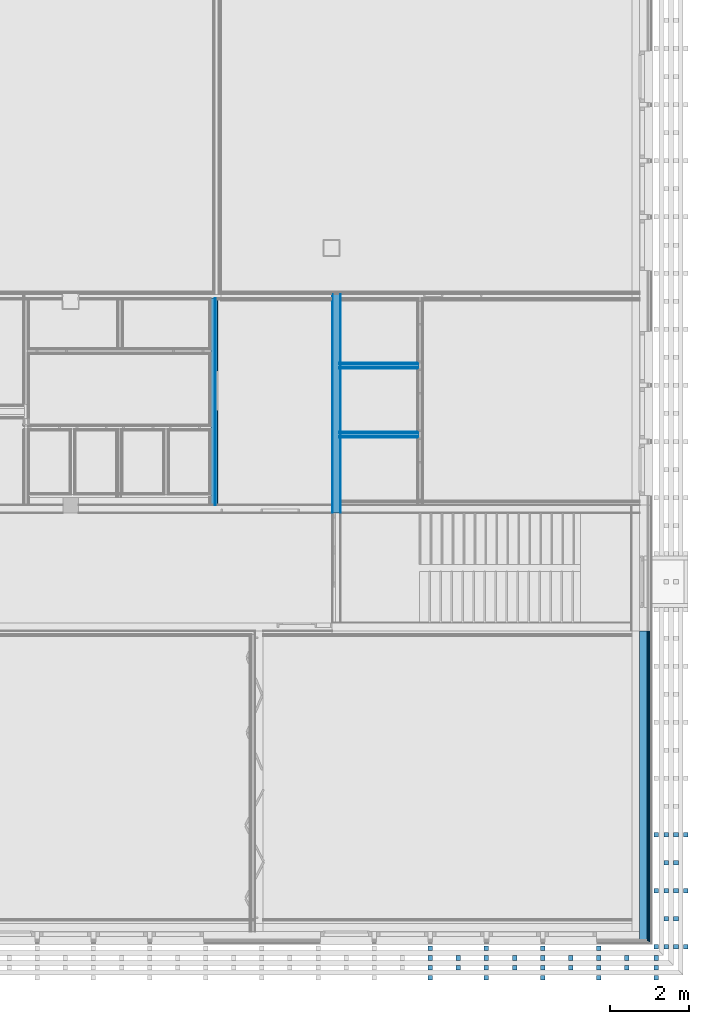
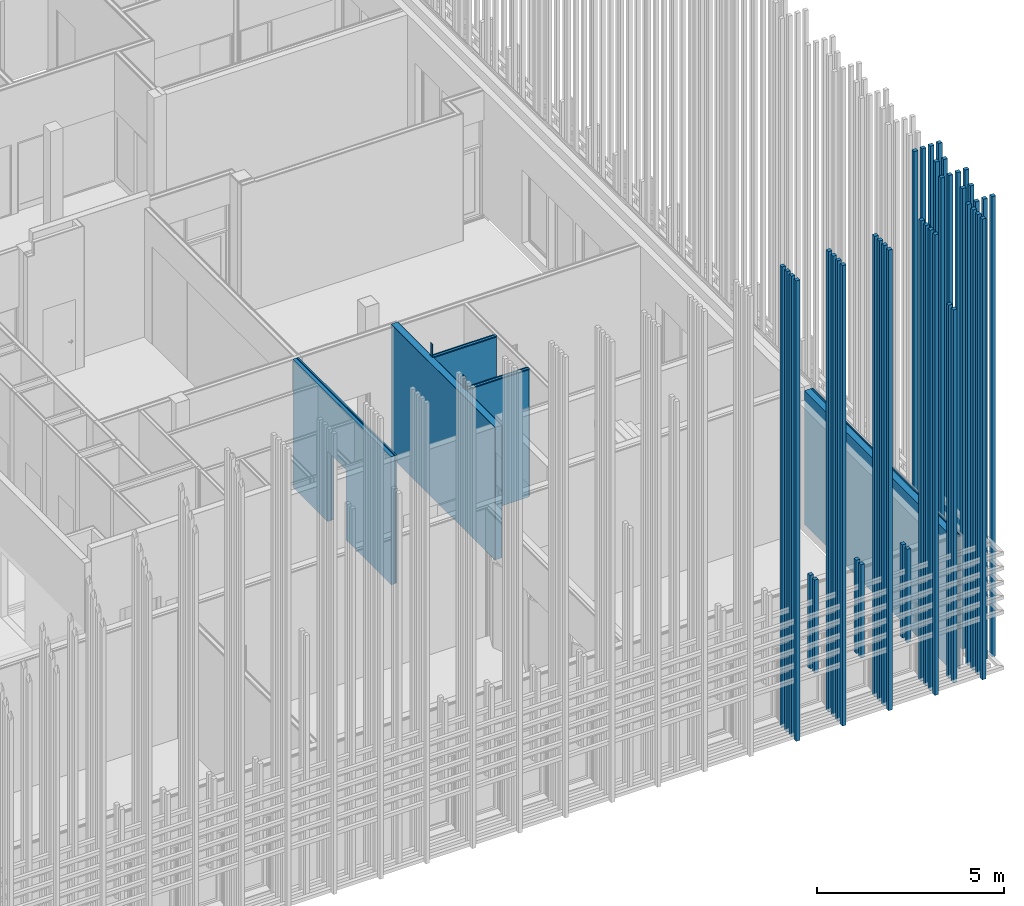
# One storey, part 202 of 260: 24 building element parts, 14 discrete accessories, 1 opening, 5 elements without a shape of their own.
"""IFC2X3 building model written with IfcOpenShell, lengths in millimetres."""

import ifcopenshell
import ifcopenshell.guid

model = None  # the IFC model being written
_history = None  # IfcOwnerHistory: only IFC2X3 demands one
_inside = {}  # id of a spatial element -> (the spatial element, [elements in it])
_under = {}  # id of a project, library or spatial element -> (it, [spatial elements below it])
_declared = {}  # id of a project -> (the project, [libraries it declares])
_typed = {}  # id of a type object -> (the type object, [elements of that type])
_made_of = {}  # id of a material, layer set ... -> (it, [elements and type objects made of it])


def new_model(schema):
    """Start an empty IFC model of exactly this schema.

    Asked for "IFC4X3", IfcOpenShell would pick the latest addendum, in which some entities
    have other attributes; the version numbers below select the first issue.
    IFC2X3 requires an IfcOwnerHistory on every rooted entity: one is made here for all.
    """
    global model, _history
    if schema == "IFC4X3":
        model = ifcopenshell.file(schema_version=(4, 3, 0, 0))
    else:
        model = ifcopenshell.file(schema=schema)
    _inside.clear()
    _under.clear()
    _declared.clear()
    _typed.clear()
    _made_of.clear()
    _history = None
    if model.schema == "IFC2X3":
        org = make("IfcOrganization", Name="unknown")
        user = make(
            "IfcPersonAndOrganization",
            ThePerson=make("IfcPerson", FamilyName="unknown"),
            TheOrganization=org,
        )
        app = make(
            "IfcApplication",
            ApplicationDeveloper=org,
            Version="unknown",
            ApplicationFullName="unknown",
            ApplicationIdentifier="unknown",
        )
        _history = make(
            "IfcOwnerHistory",
            OwningUser=user,
            OwningApplication=app,
            ChangeAction="ADDED",
            CreationDate=0,
        )
    return model


def make(cls, **values):
    """One entity of the class cls with the attributes given. An attribute that is None is left unset."""
    return model.create_entity(
        cls, **{name: value for name, value in values.items() if value is not None}
    )


def entity(cls, *values):
    """Any entity or typed value of the class cls, its attributes in the order of the schema. None: left unset."""
    e = model.create_entity(cls)
    for i, value in enumerate(values):
        if value is not None:
            e[i] = value
    return e


def rooted(cls, **values):
    """An entity with a GlobalId (a new one), such as an element, a storey or a relation."""
    return make(cls, GlobalId=ifcopenshell.guid.new(), OwnerHistory=_history, **values)


def si_unit(unit_type, name, prefix=None):
    """IfcSIUnit, for example si_unit("LENGTHUNIT", "METRE", prefix="MILLI")."""
    return make("IfcSIUnit", UnitType=unit_type, Prefix=prefix, Name=name)


def converted_unit(unit_type, name, factor, base, dimensions=None, offset=None):
    """IfcConversionBasedUnit, such as the inch: factor (a typed value) times the base unit."""
    return make(
        "IfcConversionBasedUnit"
        if offset is None
        else "IfcConversionBasedUnitWithOffset",
        ConversionOffset=offset,
        Dimensions=None
        if dimensions is None
        else entity("IfcDimensionalExponents", *dimensions),
        UnitType=unit_type,
        Name=name,
        ConversionFactor=make(
            "IfcMeasureWithUnit", ValueComponent=factor, UnitComponent=base
        ),
    )


def derived_unit(unit_type, elements):
    """IfcDerivedUnit: a product of units, each with its exponent."""
    return make(
        "IfcDerivedUnit",
        Elements=[
            make("IfcDerivedUnitElement", Unit=unit, Exponent=power)
            for unit, power in elements
        ],
        UnitType=unit_type,
    )


def money_unit(currency):
    """IfcMonetaryUnit."""
    return make("IfcMonetaryUnit", Currency=currency)


def assignment(units):
    """IfcUnitAssignment: the units of a project."""
    return None if units is None else make("IfcUnitAssignment", Units=units)


def point(xyz):
    """IfcCartesianPoint."""
    return None if xyz is None else make("IfcCartesianPoint", Coordinates=xyz)


def direction(xyz):
    """IfcDirection."""
    return None if xyz is None else make("IfcDirection", DirectionRatios=xyz)


def frame(location, z_axis=None, x_axis=None):
    """IfcAxis2Placement3D, a coordinate frame: its origin and axes. An axis left out is left unset."""
    return make(
        "IfcAxis2Placement3D",
        Location=point(location),
        Axis=direction(z_axis),
        RefDirection=direction(x_axis),
    )


def origin_with_axes():
    """The frame at (0, 0, 0) with the z axis (0, 0, 1) and the x axis (1, 0, 0) written out."""
    return frame((0.0, 0.0, 0.0), z_axis=(0.0, 0.0, 1.0), x_axis=(1.0, 0.0, 0.0))


def place(relative_to, where):
    """IfcLocalPlacement: puts the frame where relative to a parent placement (None: the world)."""
    return make(
        "IfcLocalPlacement", PlacementRelTo=relative_to, RelativePlacement=where
    )


def context(
    kind, dimensions, precision=None, world=None, true_north=None, identifier=None
):
    """IfcGeometricRepresentationContext, for example the 3D "Model" context."""
    return make(
        "IfcGeometricRepresentationContext",
        ContextIdentifier=identifier,
        ContextType=kind,
        CoordinateSpaceDimension=dimensions,
        Precision=precision,
        WorldCoordinateSystem=world,
        TrueNorth=true_north,
    )


def subcontext(parent, identifier, kind, view, scale=None):
    """IfcGeometricRepresentationSubContext, for example "Body" below "Model"."""
    return make(
        "IfcGeometricRepresentationSubContext",
        ContextIdentifier=identifier,
        ContextType=kind,
        ParentContext=parent,
        TargetScale=scale,
        TargetView=view,
    )


def project(units=None, contexts=None):
    """IfcProject with its units and contexts."""
    return rooted(
        "IfcProject",
        Name="project",
        RepresentationContexts=contexts,
        UnitsInContext=assignment(units),
    )


def spatial(cls, under=None, at=None, **own):
    """A site, building, storey or space (cls), placed at a placement, below another one or the project."""
    s = rooted(cls, ObjectPlacement=at, **own)
    if under is not None:
        _under.setdefault(under.id(), (under, []))[1].append(s)
    return s


def faces_of(points, faces, orient=None, outer=None):
    """IfcFace entities. A face is a list of loops; a loop is a list of indices into points, from 0.

    orient and outer hold one flag for each loop. By default every Orientation is true, the
    first loop of a face is its IfcFaceOuterBound and the others are IfcFaceBound.
    """
    made = []
    for i, loops in enumerate(faces):
        bounds = []
        for j, loop in enumerate(loops):
            is_outer = j == 0 if outer is None else outer[i][j]
            bounds.append(
                make(
                    "IfcFaceOuterBound" if is_outer else "IfcFaceBound",
                    Bound=make("IfcPolyLoop", Polygon=[points[k] for k in loop]),
                    Orientation=True if orient is None else orient[i][j],
                )
            )
        made.append(make("IfcFace", Bounds=bounds))
    return made


def faceted_brep(points, faces, orient=None, outer=None, voids=None):
    """IfcFacetedBrep: a solid bounded by flat faces; with voids (closed shells), ...WithVoids."""
    shared = [point(p) for p in points]
    hull = make("IfcClosedShell", CfsFaces=faces_of(shared, faces, orient, outer))
    if voids is None:
        return make("IfcFacetedBrep", Outer=hull)
    return make(
        "IfcFacetedBrepWithVoids",
        Outer=hull,
        Voids=[
            make(cls, CfsFaces=faces_of(shared, fs, o, b)) for cls, fs, o, b in voids
        ],
    )


def shape(context_of_items, identifier, shape_type, items):
    """IfcShapeRepresentation: the items that make up one representation, for example the "Body"."""
    return make(
        "IfcShapeRepresentation",
        ContextOfItems=context_of_items,
        RepresentationIdentifier=identifier,
        RepresentationType=shape_type,
        Items=items,
    )


def material(Name=None, Category=None):
    """IfcMaterial."""
    return make("IfcMaterial", Name=Name, Category=Category)


def material_list(materials):
    """IfcMaterialList."""
    return make("IfcMaterialList", Materials=materials)


def made_of(thing, what):
    """Note that an element or type object is made of a material, layer set ...; save() writes the relation."""
    if what is not None:
        _made_of.setdefault(what.id(), (what, []))[1].append(thing)
    return thing


def type_object(cls, material=None, **own):
    """A type object (cls), such as IfcWallType, which elements share."""
    return made_of(rooted(cls, **own), material)


def element(
    cls,
    number,
    at=None,
    inside=None,
    cuts=None,
    type_object=None,
    material=None,
    context=None,
    identifier="Body",
    shape_type=None,
    held_by="IfcProductDefinitionShape",
    body=None,
    shapes=None,
    **own,
):
    """One element of the class cls, such as IfcWall. Its Tag is "e" and its number.

    at: its placement. inside: the storey or other place that contains it. cuts: it is an
    opening in that element (IfcRelVoidsElement). A single representation is given by context,
    identifier, shape_type and body (its items); several are given by shapes. held_by: the class
    of the entity that holds the representations. save() writes the other relations.
    """
    e = rooted(cls, Tag="e%d" % number, ObjectPlacement=at, **own)
    if body is not None:
        shapes = [shape(context, identifier, shape_type, body)]
    if shapes is not None:
        e.Representation = make(held_by, Representations=shapes)
    if inside is not None:
        _inside.setdefault(inside.id(), (inside, []))[1].append(e)
    if cuts is not None:
        rooted(
            "IfcRelVoidsElement", RelatingBuildingElement=cuts, RelatedOpeningElement=e
        )
    if type_object is not None:
        _typed.setdefault(type_object.id(), (type_object, []))[1].append(e)
    return made_of(e, material)


def aggregate(whole, parts):
    """IfcRelAggregates: a whole, such as a stair, and the parts it consists of."""
    return rooted("IfcRelAggregates", RelatingObject=whole, RelatedObjects=parts)


def save(model, path):
    """Write the relations noted so far, then the file.

    IfcRelAggregates (storeys below a building ...), IfcRelContainedInSpatialStructure (elements
    in a storey), IfcRelDefinesByType, IfcRelAssociatesMaterial and IfcRelDeclares: one each for
    every whole, place, type object, material and project.
    """
    for whole, parts in _under.values():
        aggregate(whole, parts)
    for where, things in _inside.values():
        rooted(
            "IfcRelContainedInSpatialStructure",
            RelatedElements=things,
            RelatingStructure=where,
        )
    for kind, things in _typed.values():
        rooted("IfcRelDefinesByType", RelatedObjects=things, RelatingType=kind)
    for what, things in _made_of.values():
        rooted("IfcRelAssociatesMaterial", RelatedObjects=things, RelatingMaterial=what)
    for by, libraries in _declared.values():
        rooted("IfcRelDeclares", RelatingContext=by, RelatedDefinitions=libraries)
    model.write(path)


model = new_model("IFC2X3")

# Units and contexts
model_context = context("Model", 3, precision=0.01, world=origin_with_axes(), true_north=direction((0.0, 1.0)))
body_context = subcontext(model_context, "Body", "Model", "MODEL_VIEW")
ifc_project = project(units=[si_unit("LENGTHUNIT", "METRE", prefix="MILLI"), si_unit("AREAUNIT", "SQUARE_METRE"), si_unit("VOLUMEUNIT", "CUBIC_METRE"), converted_unit("PLANEANGLEUNIT", "DEGREE", entity("IfcPlaneAngleMeasure", 0.0174532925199), si_unit("PLANEANGLEUNIT", "RADIAN"), dimensions=[0, 0, 0, 0, 0, 0, 0]), money_unit("EUR"), converted_unit("TIMEUNIT", "Year", entity("IfcTimeMeasure", 31556926.0), si_unit("TIMEUNIT", "SECOND"), dimensions=[0, 0, 1, 0, 0, 0, 0]), si_unit("MASSUNIT", "GRAM", prefix="KILO"), si_unit("THERMODYNAMICTEMPERATUREUNIT", "DEGREE_CELSIUS"), si_unit("LUMINOUSINTENSITYUNIT", "LUMEN"), si_unit("ENERGYUNIT", "JOULE", prefix="MEGA"), derived_unit("THERMALCONDUCTANCEUNIT", [(si_unit("POWERUNIT", "WATT"), 1), (si_unit("LENGTHUNIT", "METRE"), -1), (si_unit("THERMODYNAMICTEMPERATUREUNIT", "KELVIN"), -1)]), derived_unit("SPECIFICHEATCAPACITYUNIT", [(si_unit("ENERGYUNIT", "JOULE"), 1), (si_unit("MASSUNIT", "GRAM", prefix="KILO"), -1), (si_unit("THERMODYNAMICTEMPERATUREUNIT", "KELVIN"), -1)]), derived_unit("MASSDENSITYUNIT", [(si_unit("MASSUNIT", "GRAM", prefix="KILO"), 1), (si_unit("VOLUMEUNIT", "CUBIC_METRE"), -1)])], contexts=[model_context])

# Site, building, storey
site_placement = place(None, origin_with_axes())
site = spatial("IfcSite", under=ifc_project, at=site_placement, Name="Kolde pst 67a", CompositionType="ELEMENT")
building_placement = place(site_placement, origin_with_axes())
building = spatial("IfcBuilding", under=site, at=building_placement, Name="Riigigümnaasium", CompositionType="ELEMENT")
storey_placement = place(building_placement, origin_with_axes())
storey = spatial("IfcBuildingStorey", under=building, at=storey_placement, Name="1. korrus", CompositionType="ELEMENT", Elevation=0.0)

# Discrete accessories
ifc_material_1 = material(Name="_VÄLISVIIMISTLUS - sõrmjätkatud puitprussid 120x115mm, liitekohad vähemärgatavad, Platowood sõrmjätkatud kuusk või samaväärne; eeltöödeldud tuletõkkevõõbaga, tuletundlikkus B-s1, d0, Woodsafe Exterior WFX™ või samaväärne; kinnitused vastavalt EK osale")
ifc_material_list_1 = material_list([ifc_material_1, ifc_material_1, ifc_material_1, ifc_material_1])
discrete_accessory_type_1 = type_object("IfcDiscreteAccessoryType", Name="120 4-ne vertikaalne 870 x 115")
for number, where, z_axis, x_axis in (
    (1, (84792.043936, 2497.54187115, 280.0), (0.0, 0.0, 1.0), (-0.999999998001, 6.32316306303e-05, 0.0)),
    (2, (84792.0364267, 1067.54269717, 280.0), (0.0, 0.0, 1.0), (-0.999999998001, 6.32316306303e-05, 0.0)),
    (3, (84792.0363482, -362.513908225, 280.0), (0.0, 0.0, 1.0), (-0.999999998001, 6.32316306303e-05, 0.0)),
):
    element("IfcDiscreteAccessory", number, at=place(storey_placement, frame(where, z_axis=z_axis, x_axis=x_axis)), inside=storey, type_object=discrete_accessory_type_1, material=ifc_material_list_1, Name="Päikesevarjestus", context=body_context, shape_type="Brep", body=[
        faceted_brep([(-133.0, -70.0, 0.0), (-13.0, -70.0, 0.0), (-13.0, -70.0, 15050.0), (-133.0, -70.0, 15050.0), (-133.0, 45.0, 0.0), (-13.0, 45.0, 0.0), (-13.0, 45.0, 15050.0), (-133.0, 45.0, 15050.0)], [[[0, 1, 2, 3]], [[0, 4, 5, 1]], [[1, 5, 6, 2]], [[3, 2, 6, 7]], [[4, 0, 3, 7]], [[5, 4, 7, 6]]]),
        faceted_brep([(-383.0, -70.0, 0.0), (-263.0, -70.0, 0.0), (-263.0, -70.0, 15050.0), (-383.0, -70.0, 15050.0), (-383.0, 45.0, 0.0), (-263.0, 45.0, 0.0), (-263.0, 45.0, 15050.0), (-383.0, 45.0, 15050.0)], [[[0, 1, 2, 3]], [[0, 4, 5, 1]], [[1, 5, 6, 2]], [[3, 2, 6, 7]], [[4, 0, 3, 7]], [[5, 4, 7, 6]]]),
        faceted_brep([(-633.0, -70.0, 0.0), (-513.0, -70.0, 0.0), (-513.0, -70.0, 15050.0), (-633.0, -70.0, 15050.0), (-633.0, 45.0, 0.0), (-513.0, 45.0, 0.0), (-513.0, 45.0, 15050.0), (-633.0, 45.0, 15050.0)], [[[0, 1, 2, 3]], [[0, 4, 5, 1]], [[1, 5, 6, 2]], [[3, 2, 6, 7]], [[4, 0, 3, 7]], [[5, 4, 7, 6]]]),
        faceted_brep([(-883.0, -70.0, 0.0), (-763.0, -70.0, 0.0), (-763.0, -70.0, 15050.0), (-883.0, -70.0, 15050.0), (-883.0, 45.0, 0.0), (-763.0, 45.0, 0.0), (-763.0, 45.0, 15050.0), (-883.0, 45.0, 15050.0)], [[[0, 1, 2, 3]], [[0, 4, 5, 1]], [[1, 5, 6, 2]], [[3, 2, 6, 7]], [[4, 0, 3, 7]], [[5, 4, 7, 6]]]),
    ])
for number, where, z_axis, x_axis in (
    (4, (79121.5985063, -312.000382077, 280.0), (0.0, 0.0, 1.0), (6.32316306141e-05, -0.999999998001, 0.0)),
    (5, (80551.5985026, -311.998020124, 280.0), (0.0, 0.0, 1.0), (6.32316306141e-05, -0.999999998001, 0.0)),
    (6, (81981.5985048, -311.999878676, 280.0), (0.0, 0.0, 1.0), (6.32316306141e-05, -0.999999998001, 0.0)),
    (7, (83411.5985068, -312.00107928, 280.0), (0.0, 0.0, 1.0), (6.32316306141e-05, -0.999999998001, 0.0)),
):
    element("IfcDiscreteAccessory", number, at=place(storey_placement, frame(where, z_axis=z_axis, x_axis=x_axis)), inside=storey, type_object=discrete_accessory_type_1, material=ifc_material_list_1, Name="Päikesevarjestus", context=body_context, shape_type="Brep", body=[
        faceted_brep([(133.0, 45.0, 0.0), (13.0, 45.0, 0.0), (13.0, 45.0, 15050.0), (133.0, 45.0, 15050.0), (133.0, -70.0, 0.0), (13.0, -70.0, 0.0), (13.0, -70.0, 15050.0), (133.0, -70.0, 15050.0)], [[[0, 1, 2, 3]], [[0, 4, 5, 1]], [[1, 5, 6, 2]], [[3, 2, 6, 7]], [[4, 0, 3, 7]], [[5, 4, 7, 6]]]),
        faceted_brep([(383.0, 45.0, 0.0), (263.0, 45.0, 0.0), (263.0, 45.0, 15050.0), (383.0, 45.0, 15050.0), (383.0, -70.0, 0.0), (263.0, -70.0, 0.0), (263.0, -70.0, 15050.0), (383.0, -70.0, 15050.0)], [[[0, 1, 2, 3]], [[0, 4, 5, 1]], [[1, 5, 6, 2]], [[3, 2, 6, 7]], [[4, 0, 3, 7]], [[5, 4, 7, 6]]]),
        faceted_brep([(633.0, 45.0, 0.0), (513.0, 45.0, 0.0), (513.0, 45.0, 15050.0), (633.0, 45.0, 15050.0), (633.0, -70.0, 0.0), (513.0, -70.0, 0.0), (513.0, -70.0, 15050.0), (633.0, -70.0, 15050.0)], [[[0, 1, 2, 3]], [[0, 4, 5, 1]], [[1, 5, 6, 2]], [[3, 2, 6, 7]], [[4, 0, 3, 7]], [[5, 4, 7, 6]]]),
        faceted_brep([(883.0, 45.0, 0.0), (763.0, 45.0, 0.0), (763.0, 45.0, 15050.0), (883.0, 45.0, 15050.0), (883.0, -70.0, 0.0), (763.0, -70.0, 0.0), (763.0, -70.0, 15050.0), (883.0, -70.0, 15050.0)], [[[0, 1, 2, 3]], [[0, 4, 5, 1]], [[1, 5, 6, 2]], [[3, 2, 6, 7]], [[4, 0, 3, 7]], [[5, 4, 7, 6]]]),
    ])
ifc_material_list_2 = material_list([ifc_material_1, ifc_material_1, ifc_material_1])
discrete_accessory_type_2 = type_object("IfcDiscreteAccessoryType", Name="120 4-ne vertikaalne -1 nurgaribi 620 x 115")
discrete_accessory_1_placement = place(storey_placement, frame((84877.5167146, -312.010146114, 280.0), z_axis=(0.0, 0.0, 1.0), x_axis=(6.32316306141e-05, -0.999999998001, 0.0)))
element("IfcDiscreteAccessory", 8, at=discrete_accessory_1_placement, inside=storey, type_object=discrete_accessory_type_2, material=ifc_material_list_2, Name="Päikesevarjestus", context=body_context, shape_type="Brep", body=[
    faceted_brep([(383.0, 45.0, 0.0), (263.0, 45.0, 0.0), (263.0, 45.0, 15050.0), (383.0, 45.0, 15050.0), (383.0, -70.0, 0.0), (263.0, -70.0, 0.0), (263.0, -70.0, 15050.0), (383.0, -70.0, 15050.0)], [[[0, 1, 2, 3]], [[0, 4, 5, 1]], [[1, 5, 6, 2]], [[3, 2, 6, 7]], [[4, 0, 3, 7]], [[5, 4, 7, 6]]]),
    faceted_brep([(633.0, 45.0, 0.0), (513.0, 45.0, 0.0), (513.0, 45.0, 15050.0), (633.0, 45.0, 15050.0), (633.0, -70.0, 0.0), (513.0, -70.0, 0.0), (513.0, -70.0, 15050.0), (633.0, -70.0, 15050.0)], [[[0, 1, 2, 3]], [[0, 4, 5, 1]], [[1, 5, 6, 2]], [[3, 2, 6, 7]], [[4, 0, 3, 7]], [[5, 4, 7, 6]]]),
    faceted_brep([(883.0, 45.0, 0.0), (763.0, 45.0, 0.0), (763.0, 45.0, 15050.0), (883.0, 45.0, 15050.0), (883.0, -70.0, 0.0), (763.0, -70.0, 0.0), (763.0, -70.0, 15050.0), (883.0, -70.0, 15050.0)], [[[0, 1, 2, 3]], [[0, 4, 5, 1]], [[1, 5, 6, 2]], [[3, 2, 6, 7]], [[4, 0, 3, 7]], [[5, 4, 7, 6]]]),
])
ifc_material_list_3 = material_list([ifc_material_1, ifc_material_1])
discrete_accessory_type_3 = type_object("IfcDiscreteAccessoryType", Name="1+paiksekaitse 3 370 x 115")
discrete_accessory_2_placement = place(storey_placement, frame((84174.1377114, -1292.0038668, 280.0), z_axis=(0.0, 0.0, 1.0), x_axis=(0.0, 1.0, 0.0)))
element("IfcDiscreteAccessory", 9, at=discrete_accessory_2_placement, inside=storey, type_object=discrete_accessory_type_3, material=ifc_material_list_3, Name="Päikesevarjestus", context=body_context, shape_type="Brep", body=[
    faceted_brep([(467.0, 117.5, 0.0), (347.0, 117.5, 0.0), (347.0, 117.5, 12197.5), (467.0, 117.5, 12197.5), (467.0, 2.5, 0.0), (347.0, 2.5, 0.0), (347.0, 2.5, 12197.5), (467.0, 2.5, 12197.5)], [[[0, 1, 2, 3]], [[0, 4, 5, 1]], [[1, 5, 6, 2]], [[3, 2, 6, 7]], [[4, 0, 3, 7]], [[5, 4, 7, 6]]]),
    faceted_brep([(717.0, 117.5, 0.0), (597.0, 117.5, 0.0), (597.0, 117.5, 12197.5), (717.0, 117.5, 12197.5), (717.0, 2.50000000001, 0.0), (597.0, 2.50000000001, 0.0), (597.0, 2.50000000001, 12197.5), (717.0, 2.50000000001, 12197.5)], [[[0, 1, 2, 3]], [[0, 4, 5, 1]], [[1, 5, 6, 2]], [[3, 2, 6, 7]], [[4, 0, 3, 7]], [[5, 4, 7, 6]]]),
])
for number, where, z_axis, x_axis in (
    (10, (79885.0231689, -1292.00007473, 2100.00014213), (0.0, 0.0, 1.0), (0.0, 1.0, 0.0)),
    (11, (81315.0231689, -1292.00007473, 2100.00014213), (0.0, 0.0, 1.0), (0.0, 1.0, 0.0)),
    (12, (82745.0231689, -1292.00007473, 2100.00014213), (0.0, 0.0, 1.0), (0.0, 1.0, 0.0)),
):
    element("IfcDiscreteAccessory", number, at=place(storey_placement, frame(where, z_axis=z_axis, x_axis=x_axis)), inside=storey, type_object=discrete_accessory_type_3, material=ifc_material_list_3, Name="Päikesevarjestus", context=body_context, shape_type="Brep", body=[
        faceted_brep([(467.0, 117.5, 0.0), (347.0, 117.5, 0.0), (347.0, 117.5, 3050.0), (467.0, 117.5, 3050.0), (467.0, 2.5, 0.0), (347.0, 2.5, 0.0), (347.0, 2.5, 3050.0), (467.0, 2.5, 3050.0)], [[[0, 1, 2, 3]], [[0, 4, 5, 1]], [[1, 5, 6, 2]], [[3, 2, 6, 7]], [[4, 0, 3, 7]], [[5, 4, 7, 6]]]),
        faceted_brep([(717.0, 117.5, 0.0), (597.0, 117.5, 0.0), (597.0, 117.5, 3050.0), (717.0, 117.5, 3050.0), (717.0, 2.50000000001, 0.0), (597.0, 2.50000000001, 0.0), (597.0, 2.50000000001, 3050.0), (717.0, 2.50000000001, 3050.0)], [[[0, 1, 2, 3]], [[0, 4, 5, 1]], [[1, 5, 6, 2]], [[3, 2, 6, 7]], [[4, 0, 3, 7]], [[5, 4, 7, 6]]]),
    ])
for number, where, z_axis, x_axis in (
    (13, (85772.0410105, 424.974625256, 280.0), (0.0, 0.0, 1.0), (-1.0, 0.0, 0.0)),
    (14, (85772.0410105, 1855.02625681, 280.0), (0.0, 0.0, 1.0), (-1.0, 0.0, 0.0)),
):
    element("IfcDiscreteAccessory", number, at=place(storey_placement, frame(where, z_axis=z_axis, x_axis=x_axis)), inside=storey, type_object=discrete_accessory_type_3, material=ifc_material_list_3, Name="Päikesevarjestus", context=body_context, shape_type="Brep", body=[
        faceted_brep([(467.0, 117.5, 0.0), (347.0, 117.5, 0.0), (347.0, 117.5, 15050.0), (467.0, 117.5, 15050.0), (467.0, 2.5, 0.0), (347.0, 2.5, 0.0), (347.0, 2.5, 15050.0), (467.0, 2.5, 15050.0)], [[[0, 1, 2, 3]], [[0, 4, 5, 1]], [[1, 5, 6, 2]], [[3, 2, 6, 7]], [[4, 0, 3, 7]], [[5, 4, 7, 6]]]),
        faceted_brep([(717.0, 117.5, 0.0), (597.0, 117.5, 0.0), (597.0, 117.5, 15050.0), (717.0, 117.5, 15050.0), (717.0, 2.5, 0.0), (597.0, 2.5, 0.0), (597.0, 2.5, 15050.0), (717.0, 2.5, 15050.0)], [[[0, 1, 2, 3]], [[0, 4, 5, 1]], [[1, 5, 6, 2]], [[3, 2, 6, 7]], [[4, 0, 3, 7]], [[5, 4, 7, 6]]]),
    ])

# Wall, building element parts
wall_type_1 = type_object("IfcWallType", Name="VS-CLT-20/1 512", PredefinedType="NOTDEFINED")
wall_1_placement = place(storey_placement, frame((84439.9993279, 40.0, 100.0), z_axis=(0.0, 0.0, 1.0), x_axis=(0.0, 1.0, 0.0)))
wall_1 = element("IfcWall", 15, at=wall_1_placement, inside=storey, type_object=wall_type_1, Name="Välissein")
ifc_material_2 = material(Name="_SOOJUSTUS - mineraalvill, λD<0,032 W/(mK), kuumtsingitud lehtteras termoroovidega, S350GD+Zn275 vastavalt EN10346, ISOVER EXTREME 32 200mm või samaväärne")
building_element_part_1_placement = place(wall_1_placement, origin_with_axes())
building_element_part_1 = element("IfcBuildingElementPart", 16, at=building_element_part_1_placement, material=ifc_material_2, Name="_SOOJUSTUS - mineraalvill, λD<0,032 W/(mK), kuumtsingitud lehtteras termoroovidega, S350GD+Zn275 vastavalt EN10346, ISOVER EXTREME 32 200mm või samaväärne", context=body_context, shape_type="Brep", body=[
    faceted_brep([(-200.0, 0.0, 0.0), (7659.9736286, 0.0, 0.0), (7659.9736286, -200.0, 0.0), (-200.0, -200.0, 0.0), (-200.0, 0.0, 4370.0), (7659.9736286, 0.0, 4370.0), (7659.9736286, -200.0, 4370.0), (-200.0, -200.0, 4370.0)], [[[0, 1, 2, 3]], [[4, 5, 1, 0]], [[2, 1, 5, 6]], [[3, 2, 6, 7]], [[4, 0, 3, 7]], [[7, 6, 5, 4]]]),
])
ifc_material_3 = material(Name="_TUULETÕKE - tuuletõkkeplaat, soojuserijuhtivus λD<0,031 W/(mK), ISOVER RKL FACADE või samaväärne, liitekohad katta tihendusteibiga ISOVER FacadeTape või samaväärne")
building_element_part_2_placement = place(wall_1_placement, origin_with_axes())
building_element_part_2 = element("IfcBuildingElementPart", 17, at=building_element_part_2_placement, material=ifc_material_3, Name="_TUULETÕKE - tuuletõkkeplaat, soojuserijuhtivus λD<0,031 W/(mK), ISOVER RKL FACADE või samaväärne, liitekohad katta tihendusteibiga ISOVER FacadeTape või samaväärne", context=body_context, shape_type="Brep", body=[
    faceted_brep([(7659.9736286, -200.0, 0.0), (7659.9736286, -230.0, 0.0), (-230.0, -230.0, 0.0), (-230.0, -200.0, 0.0), (7659.9736286, -200.0, 4370.0), (7659.9736286, -230.0, 4370.0), (-230.0, -230.0, 4370.0), (-230.0, -200.0, 4370.0)], [[[0, 1, 2, 3]], [[0, 4, 5, 1]], [[1, 5, 6, 2]], [[3, 2, 6, 7]], [[4, 0, 3, 7]], [[5, 4, 7, 6]]]),
])
ifc_material_4 = material(Name="_KARKASS - puitroov 32x50mm vertikaalne, immutatud Driconi tulekaitsevahendiga või samaväärne, samm 600mm")
building_element_part_3_placement = place(wall_1_placement, origin_with_axes())
building_element_part_3 = element("IfcBuildingElementPart", 18, at=building_element_part_3_placement, material=ifc_material_4, Name="_KARKASS - puitroov 32x50mm vertikaalne, immutatud Driconi tulekaitsevahendiga või samaväärne, samm 600mm", context=body_context, shape_type="Brep", body=[
    faceted_brep([(7659.9736286, -230.0, 0.0), (7659.9736286, -262.0, 0.0), (-262.0, -262.0, 0.0), (-262.0, -230.0, 0.0), (7659.9736286, -230.0, 4370.0), (7659.9736286, -262.0, 4370.0), (-262.0, -262.0, 4370.0), (-262.0, -230.0, 4370.0)], [[[0, 1, 2, 3]], [[0, 4, 5, 1]], [[1, 5, 6, 2]], [[3, 2, 6, 7]], [[4, 0, 3, 7]], [[5, 4, 7, 6]]]),
])
aggregate(wall_1, [building_element_part_1, building_element_part_2, building_element_part_3])

wall_type_2 = type_object("IfcWallType", Name="SS-MK-7,5/1_plaaditud 155", PredefinedType="NOTDEFINED")
wall_2_placement = place(storey_placement, frame((78930.6372723, 14524.9579026, 0.0), z_axis=(0.0, 0.0, 1.0), x_axis=(-1.0, -3.36424311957e-07, 0.0)))
wall_2 = element("IfcWall", 19, at=wall_2_placement, inside=storey, type_object=wall_type_2, Name="Sisesein")
ifc_material_5 = material(Name="_VIIMISTLUSKIHT - viimistlus vastavalt SA osale")
building_element_part_4_placement = place(wall_2_placement, origin_with_axes())
building_element_part_4 = element("IfcBuildingElementPart", 20, at=building_element_part_4_placement, material=ifc_material_5, Name="_VIIMISTLUSKIHT - viimistlus vastavalt SA osale", context=body_context, shape_type="Brep", body=[
    faceted_brep([(2110.95487199, 140.0, 4156.9), (154.997161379, 140.0, 4156.9), (154.997161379, 140.0, 0.0), (2135.63824186, 140.0, 0.0), (2135.63824186, 140.0, 4185.0), (2110.99944043, 140.0, 4185.0), (2110.99944043, 140.0, 4600.0), (2110.95487199, 140.0, 4600.0), (154.996770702, 155.0, 4156.9), (2110.95487704, 155.0, 4156.9), (154.996770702, 155.0, 0.0), (2135.63824186, 155.0, 0.0), (2135.63824186, 155.0, 4185.0), (2110.99951186, 155.0, 4185.0), (2110.99951186, 155.0, 4600.0), (2110.95487704, 155.0, 4600.0)], [[[0, 1, 2, 3, 4, 5, 6, 7]], [[8, 1, 0, 9]], [[1, 8, 10, 2]], [[10, 11, 3, 2]], [[12, 4, 3, 11]], [[5, 4, 12, 13]], [[6, 5, 13, 14]], [[15, 7, 6, 14]], [[9, 0, 7, 15]], [[9, 15, 14, 13, 12, 11, 10, 8]]]),
])
ifc_material_6 = material(Name="_PLAATMATERJAL - kipsplaat veekindel")
building_element_part_5_placement = place(wall_2_placement, origin_with_axes())
building_element_part_5 = element("IfcBuildingElementPart", 21, at=building_element_part_5_placement, material=ifc_material_6, Name="_PLAATMATERJAL - kipsplaat veekindel", context=body_context, shape_type="Brep", body=[
    faceted_brep([(2110.95486779, 127.5, 4156.9), (139.997486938, 127.5, 4156.9), (139.997486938, 127.5, 0.0), (2135.63824186, 127.5, 0.0), (2135.63824186, 127.5, 4185.0), (2110.9993809, 127.5, 4185.0), (2110.9993809, 127.5, 4600.0), (2110.95486779, 127.5, 4600.0), (139.997161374, 140.0, 4156.9), (2110.95487199, 140.0, 4156.9), (139.997161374, 140.0, 0.0), (2135.63824186, 140.0, 0.0), (2135.63824186, 140.0, 4185.0), (2110.99944043, 140.0, 4185.0), (2110.99944043, 140.0, 4600.0), (2110.95487199, 140.0, 4600.0)], [[[0, 1, 2, 3, 4, 5, 6, 7]], [[8, 1, 0, 9]], [[1, 8, 10, 2]], [[10, 11, 3, 2]], [[12, 4, 3, 11]], [[5, 4, 12, 13]], [[6, 5, 13, 14]], [[15, 7, 6, 14]], [[9, 0, 7, 15]], [[9, 15, 14, 13, 12, 11, 10, 8]]]),
])
building_element_part_6_placement = place(wall_2_placement, origin_with_axes())
building_element_part_6 = element("IfcBuildingElementPart", 22, at=building_element_part_6_placement, material=ifc_material_6, Name="_PLAATMATERJAL - kipsplaat veekindel", context=body_context, shape_type="Brep", body=[
    faceted_brep([(2110.95486358, 115.0, 4156.9), (127.497812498, 115.0, 4156.9), (127.497812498, 115.0, 0.0), (2135.63824186, 115.0, 0.0), (2135.63824186, 115.0, 4185.0), (2110.99932138, 115.0, 4185.0), (2110.99932138, 115.0, 4600.0), (2110.95486358, 115.0, 4600.0), (127.497486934, 127.5, 4156.9), (2110.95486779, 127.5, 4156.9), (127.497486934, 127.5, 0.0), (2135.63824186, 127.5, 0.0), (2135.63824186, 127.5, 4185.0), (2110.9993809, 127.5, 4185.0), (2110.9993809, 127.5, 4600.0), (2110.95486779, 127.5, 4600.0)], [[[0, 1, 2, 3, 4, 5, 6, 7]], [[8, 1, 0, 9]], [[1, 8, 10, 2]], [[10, 11, 3, 2]], [[12, 4, 3, 11]], [[5, 4, 12, 13]], [[6, 5, 13, 14]], [[15, 7, 6, 14]], [[9, 0, 7, 15]], [[9, 15, 14, 13, 12, 11, 10, 8]]]),
])
ifc_material_7 = material(Name="_KARKASS - metallkarkass CW 75/50, mineraalvill karkassi vahel")
building_element_part_7_placement = place(wall_2_placement, origin_with_axes())
building_element_part_7 = element("IfcBuildingElementPart", 23, at=building_element_part_7_placement, material=ifc_material_7, Name="_KARKASS - metallkarkass CW 75/50, mineraalvill karkassi vahel", context=body_context, shape_type="Brep", body=[
    faceted_brep([(2110.95483835, 40.0, 4156.9), (114.99976588, 40.0, 4156.9), (114.99976588, 40.0, 0.0), (2135.63824186, 40.0, 0.0), (2135.63824186, 40.0, 4185.0), (2110.99896422, 40.0, 4185.0), (2110.99896422, 40.0, 4600.0), (2110.95483835, 40.0, 4600.0), (114.997812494, 115.0, 4156.9), (2110.95486358, 115.0, 4156.9), (114.997812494, 115.0, 0.0), (2135.63824186, 115.0, 0.0), (2135.63824186, 115.0, 4185.0), (2110.99932138, 115.0, 4185.0), (2110.99932138, 115.0, 4600.0), (2110.95486358, 115.0, 4600.0)], [[[0, 1, 2, 3, 4, 5, 6, 7]], [[8, 1, 0, 9]], [[1, 8, 10, 2]], [[10, 11, 3, 2]], [[12, 4, 3, 11]], [[5, 4, 12, 13]], [[6, 5, 13, 14]], [[15, 7, 6, 14]], [[9, 0, 7, 15]], [[9, 15, 14, 13, 12, 11, 10, 8]]]),
])
building_element_part_8_placement = place(wall_2_placement, origin_with_axes())
building_element_part_8 = element("IfcBuildingElementPart", 24, at=building_element_part_8_placement, material=ifc_material_6, Name="_PLAATMATERJAL - kipsplaat veekindel", context=body_context, shape_type="Brep", body=[
    faceted_brep([(2110.95483414, 27.5, 4156.9), (127.500091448, 27.5, 4156.9), (127.500091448, 27.5, 0.0), (2135.63824186, 27.5, 0.0), (2135.63824186, 27.5, 4185.0), (2110.99890469, 27.5, 4185.0), (2110.99890469, 27.5, 4600.0), (2110.95483414, 27.5, 4600.0), (127.499765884, 40.0, 4156.9), (2110.95483835, 40.0, 4156.9), (127.499765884, 40.0, 0.0), (2135.63824186, 40.0, 0.0), (2135.63824186, 40.0, 4185.0), (2110.99896422, 40.0, 4185.0), (2110.99896422, 40.0, 4600.0), (2110.95483835, 40.0, 4600.0)], [[[0, 1, 2, 3, 4, 5, 6, 7]], [[8, 1, 0, 9]], [[1, 8, 10, 2]], [[10, 11, 3, 2]], [[12, 4, 3, 11]], [[5, 4, 12, 13]], [[6, 5, 13, 14]], [[15, 7, 6, 14]], [[9, 0, 7, 15]], [[9, 15, 14, 13, 12, 11, 10, 8]]]),
])
building_element_part_9_placement = place(wall_2_placement, origin_with_axes())
building_element_part_9 = element("IfcBuildingElementPart", 25, at=building_element_part_9_placement, material=ifc_material_6, Name="_PLAATMATERJAL - kipsplaat veekindel", context=body_context, shape_type="Brep", body=[
    faceted_brep([(2110.95482994, 15.0, 4156.9), (140.000417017, 15.0, 4156.9), (140.000417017, 15.0, 0.0), (2135.63824186, 15.0, 0.0), (2135.63824186, 15.0, 4185.0), (2110.99884517, 15.0, 4185.0), (2110.99884517, 15.0, 4600.0), (2110.95482994, 15.0, 4600.0), (140.000091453, 27.5, 4156.9), (2110.95483414, 27.5, 4156.9), (140.000091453, 27.5, 0.0), (2135.63824186, 27.5, 0.0), (2135.63824186, 27.5, 4185.0), (2110.99890469, 27.5, 4185.0), (2110.99890469, 27.5, 4600.0), (2110.95483414, 27.5, 4600.0)], [[[0, 1, 2, 3, 4, 5, 6, 7]], [[8, 1, 0, 9]], [[1, 8, 10, 2]], [[10, 11, 3, 2]], [[12, 4, 3, 11]], [[5, 4, 12, 13]], [[6, 5, 13, 14]], [[15, 7, 6, 14]], [[9, 0, 7, 15]], [[9, 15, 14, 13, 12, 11, 10, 8]]]),
])
building_element_part_10_placement = place(wall_2_placement, origin_with_axes())
building_element_part_10 = element("IfcBuildingElementPart", 26, at=building_element_part_10_placement, material=ifc_material_5, Name="_VIIMISTLUSKIHT - viimistlus vastavalt SA osale", context=body_context, shape_type="Brep", body=[
    faceted_brep([(2110.95482489, 0.0, 4156.9), (155.000807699, 0.0, 4156.9), (155.000807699, 0.0, 0.0), (2135.63824186, 0.0, 0.0), (2135.63824186, 0.0, 4185.0), (2110.99877374, 0.0, 4185.0), (2110.99877374, 0.0, 4600.0), (2110.95482489, 0.0, 4600.0), (155.000417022, 15.0, 4156.9), (2110.95482994, 15.0, 4156.9), (155.000417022, 15.0, 0.0), (2135.63824186, 15.0, 0.0), (2135.63824186, 15.0, 4185.0), (2110.99884517, 15.0, 4185.0), (2110.99884517, 15.0, 4600.0), (2110.95482994, 15.0, 4600.0)], [[[0, 1, 2, 3, 4, 5, 6, 7]], [[8, 1, 0, 9]], [[1, 8, 10, 2]], [[10, 11, 3, 2]], [[12, 4, 3, 11]], [[5, 4, 12, 13]], [[6, 5, 13, 14]], [[15, 7, 6, 14]], [[9, 0, 7, 15]], [[9, 15, 14, 13, 12, 11, 10, 8]]]),
])
aggregate(wall_2, [building_element_part_4, building_element_part_5, building_element_part_6, building_element_part_7, building_element_part_8, building_element_part_9, building_element_part_10])

wall_3_placement = place(storey_placement, frame((78930.6827502, 12769.9579031, 0.0), z_axis=(0.0, 0.0, 1.0), x_axis=(-1.0, -3.36424312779e-07, 0.0)))
wall_3 = element("IfcWall", 27, at=wall_3_placement, inside=storey, type_object=wall_type_2, Name="Sisesein")
building_element_part_11_placement = place(wall_3_placement, origin_with_axes())
building_element_part_11 = element("IfcBuildingElementPart", 28, at=building_element_part_11_placement, material=ifc_material_5, Name="_VIIMISTLUSKIHT - viimistlus vastavalt SA osale", context=body_context, shape_type="Brep", body=[
    faceted_brep([(2111.00034992, 140.0, 4156.9), (154.996339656, 140.0, 4156.9), (154.996339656, 140.0, 0.0), (2135.68345021, 140.0, 0.0), (2135.68345021, 140.0, 4185.0), (2111.05268537, 140.0, 4185.0), (2111.05268537, 140.0, 4600.0), (2111.00034992, 140.0, 4600.0), (154.995948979, 155.0, 4156.9), (2111.00035497, 155.0, 4156.9), (154.995948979, 155.0, 0.0), (2135.68345021, 155.0, 0.0), (2135.68345021, 155.0, 4185.0), (2111.05275681, 155.0, 4185.0), (2111.05275681, 155.0, 4600.0), (2111.00035497, 155.0, 4600.0)], [[[0, 1, 2, 3, 4, 5, 6, 7]], [[8, 1, 0, 9]], [[1, 8, 10, 2]], [[10, 11, 3, 2]], [[12, 4, 3, 11]], [[5, 4, 12, 13]], [[6, 5, 13, 14]], [[15, 7, 6, 14]], [[9, 0, 7, 15]], [[9, 15, 14, 13, 12, 11, 10, 8]]]),
])
building_element_part_12_placement = place(wall_3_placement, origin_with_axes())
building_element_part_12 = element("IfcBuildingElementPart", 29, at=building_element_part_12_placement, material=ifc_material_6, Name="_PLAATMATERJAL - kipsplaat veekindel", context=body_context, shape_type="Brep", body=[
    faceted_brep([(2111.00034572, 127.5, 4156.9), (139.996665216, 127.5, 4156.9), (139.996665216, 127.5, 0.0), (2135.68345021, 127.5, 0.0), (2135.68345021, 127.5, 4185.0), (2111.05262585, 127.5, 4185.0), (2111.05262585, 127.5, 4600.0), (2111.00034572, 127.5, 4600.0), (139.996339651, 140.0, 4156.9), (2111.00034992, 140.0, 4156.9), (139.996339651, 140.0, 0.0), (2135.68345021, 140.0, 0.0), (2135.68345021, 140.0, 4185.0), (2111.05268537, 140.0, 4185.0), (2111.05268537, 140.0, 4600.0), (2111.00034992, 140.0, 4600.0)], [[[0, 1, 2, 3, 4, 5, 6, 7]], [[8, 1, 0, 9]], [[1, 8, 10, 2]], [[10, 11, 3, 2]], [[12, 4, 3, 11]], [[5, 4, 12, 13]], [[6, 5, 13, 14]], [[15, 7, 6, 14]], [[9, 0, 7, 15]], [[9, 15, 14, 13, 12, 11, 10, 8]]]),
])
building_element_part_13_placement = place(wall_3_placement, origin_with_axes())
building_element_part_13 = element("IfcBuildingElementPart", 30, at=building_element_part_13_placement, material=ifc_material_6, Name="_PLAATMATERJAL - kipsplaat veekindel", context=body_context, shape_type="Brep", body=[
    faceted_brep([(2111.00034151, 115.0, 4156.9), (127.496990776, 115.0, 4156.9), (127.496990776, 115.0, 0.0), (2135.68345021, 115.0, 0.0), (2135.68345021, 115.0, 4185.0), (2111.05256632, 115.0, 4185.0), (2111.05256632, 115.0, 4600.0), (2111.00034151, 115.0, 4600.0), (127.496665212, 127.5, 4156.9), (2111.00034572, 127.5, 4156.9), (127.496665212, 127.5, 0.0), (2135.68345021, 127.5, 0.0), (2135.68345021, 127.5, 4185.0), (2111.05262585, 127.5, 4185.0), (2111.05262585, 127.5, 4600.0), (2111.00034572, 127.5, 4600.0)], [[[0, 1, 2, 3, 4, 5, 6, 7]], [[8, 1, 0, 9]], [[1, 8, 10, 2]], [[10, 11, 3, 2]], [[12, 4, 3, 11]], [[5, 4, 12, 13]], [[6, 5, 13, 14]], [[15, 7, 6, 14]], [[9, 0, 7, 15]], [[9, 15, 14, 13, 12, 11, 10, 8]]]),
])
building_element_part_14_placement = place(wall_3_placement, origin_with_axes())
building_element_part_14 = element("IfcBuildingElementPart", 31, at=building_element_part_14_placement, material=ifc_material_7, Name="_KARKASS - metallkarkass CW 75/50, mineraalvill karkassi vahel", context=body_context, shape_type="Brep", body=[
    faceted_brep([(2111.00031628, 40.0, 4156.9), (114.998944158, 40.0, 4156.9), (114.998944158, 40.0, 0.0), (2135.68345021, 40.0, 0.0), (2135.68345021, 40.0, 4185.0), (2111.05220917, 40.0, 4185.0), (2111.05220917, 40.0, 4600.0), (2111.00031628, 40.0, 4600.0), (114.996990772, 115.0, 4156.9), (2111.00034151, 115.0, 4156.9), (114.996990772, 115.0, 0.0), (2135.68345021, 115.0, 0.0), (2135.68345021, 115.0, 4185.0), (2111.05256632, 115.0, 4185.0), (2111.05256632, 115.0, 4600.0), (2111.00034151, 115.0, 4600.0)], [[[0, 1, 2, 3, 4, 5, 6, 7]], [[8, 1, 0, 9]], [[1, 8, 10, 2]], [[10, 11, 3, 2]], [[12, 4, 3, 11]], [[5, 4, 12, 13]], [[6, 5, 13, 14]], [[15, 7, 6, 14]], [[9, 0, 7, 15]], [[9, 15, 14, 13, 12, 11, 10, 8]]]),
])
building_element_part_15_placement = place(wall_3_placement, origin_with_axes())
building_element_part_15 = element("IfcBuildingElementPart", 32, at=building_element_part_15_placement, material=ifc_material_6, Name="_PLAATMATERJAL - kipsplaat veekindel", context=body_context, shape_type="Brep", body=[
    faceted_brep([(2111.00031208, 27.5, 4156.9), (127.499269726, 27.5, 4156.9), (127.499269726, 27.5, 0.0), (2135.68345021, 27.5, 0.0), (2135.68345021, 27.5, 4185.0), (2111.05214964, 27.5, 4185.0), (2111.05214964, 27.5, 4600.0), (2111.00031208, 27.5, 4600.0), (127.498944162, 40.0, 4156.9), (2111.00031628, 40.0, 4156.9), (127.498944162, 40.0, 0.0), (2135.68345021, 40.0, 0.0), (2135.68345021, 40.0, 4185.0), (2111.05220917, 40.0, 4185.0), (2111.05220917, 40.0, 4600.0), (2111.00031628, 40.0, 4600.0)], [[[0, 1, 2, 3, 4, 5, 6, 7]], [[8, 1, 0, 9]], [[1, 8, 10, 2]], [[10, 11, 3, 2]], [[12, 4, 3, 11]], [[5, 4, 12, 13]], [[6, 5, 13, 14]], [[15, 7, 6, 14]], [[9, 0, 7, 15]], [[9, 15, 14, 13, 12, 11, 10, 8]]]),
])
building_element_part_16_placement = place(wall_3_placement, origin_with_axes())
building_element_part_16 = element("IfcBuildingElementPart", 33, at=building_element_part_16_placement, material=ifc_material_6, Name="_PLAATMATERJAL - kipsplaat veekindel", context=body_context, shape_type="Brep", body=[
    faceted_brep([(2111.00030787, 15.0, 4156.9), (139.999595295, 15.0, 4156.9), (139.999595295, 15.0, 0.0), (2135.68345021, 15.0, 0.0), (2135.68345021, 15.0, 4185.0), (2111.05209012, 15.0, 4185.0), (2111.05209012, 15.0, 4600.0), (2111.00030787, 15.0, 4600.0), (139.99926973, 27.5, 4156.9), (2111.00031208, 27.5, 4156.9), (139.99926973, 27.5, 0.0), (2135.68345021, 27.5, 0.0), (2135.68345021, 27.5, 4185.0), (2111.05214964, 27.5, 4185.0), (2111.05214964, 27.5, 4600.0), (2111.00031208, 27.5, 4600.0)], [[[0, 1, 2, 3, 4, 5, 6, 7]], [[8, 1, 0, 9]], [[1, 8, 10, 2]], [[10, 11, 3, 2]], [[12, 4, 3, 11]], [[5, 4, 12, 13]], [[6, 5, 13, 14]], [[15, 7, 6, 14]], [[9, 0, 7, 15]], [[9, 15, 14, 13, 12, 11, 10, 8]]]),
])
building_element_part_17_placement = place(wall_3_placement, origin_with_axes())
building_element_part_17 = element("IfcBuildingElementPart", 34, at=building_element_part_17_placement, material=ifc_material_5, Name="_VIIMISTLUSKIHT - viimistlus vastavalt SA osale", context=body_context, shape_type="Brep", body=[
    faceted_brep([(2111.00030283, 0.0, 4156.9), (154.999985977, 0.0, 4156.9), (154.999985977, 0.0, 0.0), (2135.68345021, 0.0, 0.0), (2135.68345021, 0.0, 4185.0), (2111.05201868, 0.0, 4185.0), (2111.05201868, 0.0, 4600.0), (2111.00030283, 0.0, 4600.0), (154.9995953, 15.0, 4156.9), (2111.00030787, 15.0, 4156.9), (154.9995953, 15.0, 0.0), (2135.68345021, 15.0, 0.0), (2135.68345021, 15.0, 4185.0), (2111.05209012, 15.0, 4185.0), (2111.05209012, 15.0, 4600.0), (2111.00030787, 15.0, 4600.0)], [[[0, 1, 2, 3, 4, 5, 6, 7]], [[8, 1, 0, 9]], [[1, 8, 10, 2]], [[10, 11, 3, 2]], [[12, 4, 3, 11]], [[5, 4, 12, 13]], [[6, 5, 13, 14]], [[15, 7, 6, 14]], [[9, 0, 7, 15]], [[9, 15, 14, 13, 12, 11, 10, 8]]]),
])
aggregate(wall_3, [building_element_part_11, building_element_part_12, building_element_part_13, building_element_part_14, building_element_part_15, building_element_part_16, building_element_part_17])

# Wall, opening, building element parts
wall_type_3 = type_object("IfcWallType", Name="SS-PK-10/7_vill100+plaat+värv vineeriga 217", PredefinedType="NOTDEFINED")
wall_4_placement = place(storey_placement, frame((73479.99953, 10899.9620985, 0.0), z_axis=(0.0, 0.0, 1.0), x_axis=(0.0, 1.0, 0.0)))
wall_4 = element("IfcWall", 35, at=wall_4_placement, inside=storey, type_object=wall_type_3, Name="Sisesein")
opening_placement = place(wall_4_placement, frame((2909.99999996, 0.0, 0.0), z_axis=(0.0, 0.0, 1.0), x_axis=(1.0, 0.0, 0.0)))
element("IfcOpeningElement", 36, at=opening_placement, cuts=wall_4, Name="Siseuks", context=body_context, shape_type="Brep", body=[
    faceted_brep([(500.0, -434.0, 2300.0), (500.0, -434.0, 0.0), (500.0, 217.0, 0.0), (500.0, 217.0, 2300.0), (-500.0, -434.0, 2300.0), (-500.0, -434.0, 0.0), (-500.0, 217.0, 0.0), (-500.0, 217.0, 2300.0)], [[[0, 1, 2, 3]], [[0, 4, 5, 1]], [[1, 5, 6, 2]], [[3, 2, 6, 7]], [[4, 0, 3, 7]], [[5, 4, 7, 6]]]),
])
ifc_material_8 = material(Name="_KARKASS - puitpruss 100x50mm vertikaalne, samm 600mm, vahel mineraalvill, helineeldetegur αw = 1.0, ISOVER ACOUSTIC 100mm või samaväärne")
building_element_part_18_placement = place(wall_4_placement, origin_with_axes())
building_element_part_18 = element("IfcBuildingElementPart", 37, at=building_element_part_18_placement, material=ifc_material_8, Name="_KARKASS - puitpruss 100x50mm vertikaalne, samm 600mm, vahel mineraalvill, helineeldetegur αw = 1.0, ISOVER ACOUSTIC 100mm või samaväärne", context=body_context, shape_type="Brep", body=[
    faceted_brep([(2409.99999996, -140.0, 0.0), (2409.99999996, -140.0, 2300.0), (3409.99999996, -140.0, 2300.0), (3409.99999996, -140.0, 0.0), (5270.04462681, -140.0, 0.0), (5270.04462681, -140.0, 4185.0), (0.0, -140.0, 4185.0), (0.0, -140.0, 0.0), (2409.99999996, -40.0, 0.0), (2409.99999996, -40.0, 2300.0), (3409.99999996, -40.0, 2300.0), (3409.99999996, -40.0, 0.0), (5270.04469972, -40.0, 0.0), (5270.04469972, -40.0, 4185.0), (0.0, -40.0, 4185.0), (0.0, -40.0, 0.0)], [[[0, 1, 2, 3, 4, 5, 6, 7]], [[1, 0, 8, 9]], [[2, 1, 9, 10]], [[3, 2, 10, 11]], [[3, 11, 12, 4]], [[4, 12, 13, 5]], [[14, 6, 5, 13]], [[14, 15, 7, 6]], [[8, 0, 7, 15]], [[9, 8, 15, 14, 13, 12, 11, 10]]]),
])
ifc_material_9 = material(Name="_PLAATMATERJAL - vineerplaat")
building_element_part_19_placement = place(wall_4_placement, origin_with_axes())
building_element_part_19 = element("IfcBuildingElementPart", 38, at=building_element_part_19_placement, material=ifc_material_9, Name="_PLAATMATERJAL - vineerplaat", context=body_context, shape_type="Brep", body=[
    faceted_brep([(2409.99999996, -152.0, 0.0), (2409.99999996, -152.0, 2300.0), (3409.99999996, -152.0, 2300.0), (3409.99999996, -152.0, 0.0), (5270.04461806, -152.0, 0.0), (5270.04461806, -152.0, 4185.0), (0.0, -152.0, 4185.0), (0.0, -152.0, 0.0), (2409.99999996, -140.0, 0.0), (2409.99999996, -140.0, 2300.0), (3409.99999996, -140.0, 2300.0), (3409.99999996, -140.0, 0.0), (5270.04462681, -140.0, 0.0), (5270.04462681, -140.0, 4185.0), (0.0, -140.0, 4185.0), (0.0, -140.0, 0.0)], [[[0, 1, 2, 3, 4, 5, 6, 7]], [[1, 0, 8, 9]], [[2, 1, 9, 10]], [[3, 2, 10, 11]], [[3, 11, 12, 4]], [[4, 12, 13, 5]], [[14, 6, 5, 13]], [[14, 15, 7, 6]], [[8, 0, 7, 15]], [[9, 8, 15, 14, 13, 12, 11, 10]]]),
])
ifc_material_10 = material(Name="_PLAATMATERJAL - tuletõkkekipsplaat, Knauf Red GKF või samaväärne")
building_element_part_20_placement = place(wall_4_placement, origin_with_axes())
building_element_part_20 = element("IfcBuildingElementPart", 39, at=building_element_part_20_placement, material=ifc_material_10, Name="_PLAATMATERJAL - tuletõkkekipsplaat, Knauf Red GKF või samaväärne", context=body_context, shape_type="Brep", body=[
    faceted_brep([(2409.99999996, -167.0, 0.0), (2409.99999996, -167.0, 2300.0), (3409.99999996, -167.0, 2300.0), (3409.99999996, -167.0, 0.0), (5270.04460712, -167.0, 0.0), (5270.04460712, -167.0, 4185.0), (0.0, -167.0, 4185.0), (0.0, -167.0, 0.0), (2409.99999996, -152.0, 0.0), (2409.99999996, -152.0, 2300.0), (3409.99999996, -152.0, 2300.0), (3409.99999996, -152.0, 0.0), (5270.04461806, -152.0, 0.0), (5270.04461806, -152.0, 4185.0), (0.0, -152.0, 4185.0), (0.0, -152.0, 0.0)], [[[0, 1, 2, 3, 4, 5, 6, 7]], [[1, 0, 8, 9]], [[2, 1, 9, 10]], [[3, 2, 10, 11]], [[3, 11, 12, 4]], [[4, 12, 13, 5]], [[14, 6, 5, 13]], [[14, 15, 7, 6]], [[8, 0, 7, 15]], [[9, 8, 15, 14, 13, 12, 11, 10]]]),
])
ifc_material_11 = material(Name="_KARKASS - roov 50x50mm, s. 600 mm, kinnitus puidukruvidega")
building_element_part_21_placement = place(wall_4_placement, origin_with_axes())
building_element_part_21 = element("IfcBuildingElementPart", 40, at=building_element_part_21_placement, material=ifc_material_11, Name="_KARKASS - roov 50x50mm, s. 600 mm, kinnitus puidukruvidega", context=body_context, shape_type="Brep", body=[
    faceted_brep([(2409.99999996, -217.0, 0.0), (2409.99999996, -217.0, 2300.0), (3409.99999996, -217.0, 2300.0), (3409.99999996, -217.0, 0.0), (5270.04457066, -217.0, 0.0), (5270.04457066, -217.0, 4185.0), (0.0, -217.0, 4185.0), (0.0, -217.0, 0.0), (2409.99999996, -167.0, 0.0), (2409.99999996, -167.0, 2300.0), (3409.99999996, -167.0, 2300.0), (3409.99999996, -167.0, 0.0), (5270.04460712, -167.0, 0.0), (5270.04460712, -167.0, 4185.0), (0.0, -167.0, 4185.0), (0.0, -167.0, 0.0)], [[[0, 1, 2, 3, 4, 5, 6, 7]], [[1, 0, 8, 9]], [[2, 1, 9, 10]], [[3, 2, 10, 11]], [[3, 11, 12, 4]], [[4, 12, 13, 5]], [[14, 6, 5, 13]], [[14, 15, 7, 6]], [[8, 0, 7, 15]], [[9, 8, 15, 14, 13, 12, 11, 10]]]),
])
aggregate(wall_4, [building_element_part_18, building_element_part_19, building_element_part_20, building_element_part_21])

# Wall, building element parts
wall_type_4 = type_object("IfcWallType", Name="SS-RB-20/1_+2 krohv 55 dB 220", PredefinedType="NOTDEFINED")
wall_5_placement = place(storey_placement, frame((76619.9946973, 16270.0042695, -150.0), z_axis=(0.0, 0.0, 1.0), x_axis=(0.0, -1.0, 0.0)))
wall_5 = element("IfcWall", 41, at=wall_5_placement, inside=storey, type_object=wall_type_4, Name="Sisesein")
building_element_part_22_placement = place(wall_5_placement, origin_with_axes())
building_element_part_22 = element("IfcBuildingElementPart", 42, at=building_element_part_22_placement, material=ifc_material_5, Name="_VIIMISTLUSKIHT - viimistlus vastavalt SA osale", context=body_context, shape_type="Brep", body=[
    faceted_brep([(5570.04232764, 210.0, 0.0), (5570.04232764, 200.0, 0.0), (0.0, 200.0, 0.0), (0.0, 210.0, 0.0), (5570.04232764, 210.0, 4335.0), (5570.04232764, 200.0, 4335.0), (0.0, 200.0, 4335.0), (0.0, 210.0, 4335.0)], [[[0, 1, 2, 3]], [[0, 4, 5, 1]], [[1, 5, 6, 2]], [[3, 2, 6, 7]], [[4, 0, 3, 7]], [[5, 4, 7, 6]]]),
])
ifc_material_12 = material(Name="_KANDETARIND - monteeritav raudbetoon vastavalt EK osale")
building_element_part_23_placement = place(wall_5_placement, origin_with_axes())
building_element_part_23 = element("IfcBuildingElementPart", 43, at=building_element_part_23_placement, material=ifc_material_12, Name="_KANDETARIND - monteeritav raudbetoon vastavalt EK osale", context=body_context, shape_type="Brep", body=[
    faceted_brep([(5570.04232764, 200.0, 0.0), (5570.04232764, 0.0, 0.0), (0.0, 0.0, 0.0), (0.0, 200.0, 0.0), (5570.04232764, 200.0, 4335.0), (5570.04232764, 0.0, 4335.0), (0.0, 0.0, 4335.0), (0.0, 200.0, 4335.0)], [[[0, 1, 2, 3]], [[0, 4, 5, 1]], [[1, 5, 6, 2]], [[3, 2, 6, 7]], [[4, 0, 3, 7]], [[5, 4, 7, 6]]]),
])
building_element_part_24_placement = place(wall_5_placement, origin_with_axes())
building_element_part_24 = element("IfcBuildingElementPart", 44, at=building_element_part_24_placement, material=ifc_material_5, Name="_VIIMISTLUSKIHT - viimistlus vastavalt SA osale", context=body_context, shape_type="Brep", body=[
    faceted_brep([(5570.04232764, 0.0, 0.0), (5570.04232764, -10.0, 0.0), (0.0, -10.0, 0.0), (0.0, 0.0, 0.0), (5570.04232764, 0.0, 4335.0), (5570.04232764, -10.0, 4335.0), (0.0, -10.0, 4335.0), (0.0, 0.0, 4335.0)], [[[0, 1, 2, 3]], [[0, 4, 5, 1]], [[1, 5, 6, 2]], [[3, 2, 6, 7]], [[4, 0, 3, 7]], [[5, 4, 7, 6]]]),
])
aggregate(wall_5, [building_element_part_22, building_element_part_23, building_element_part_24])

save(model, "model.ifc")
